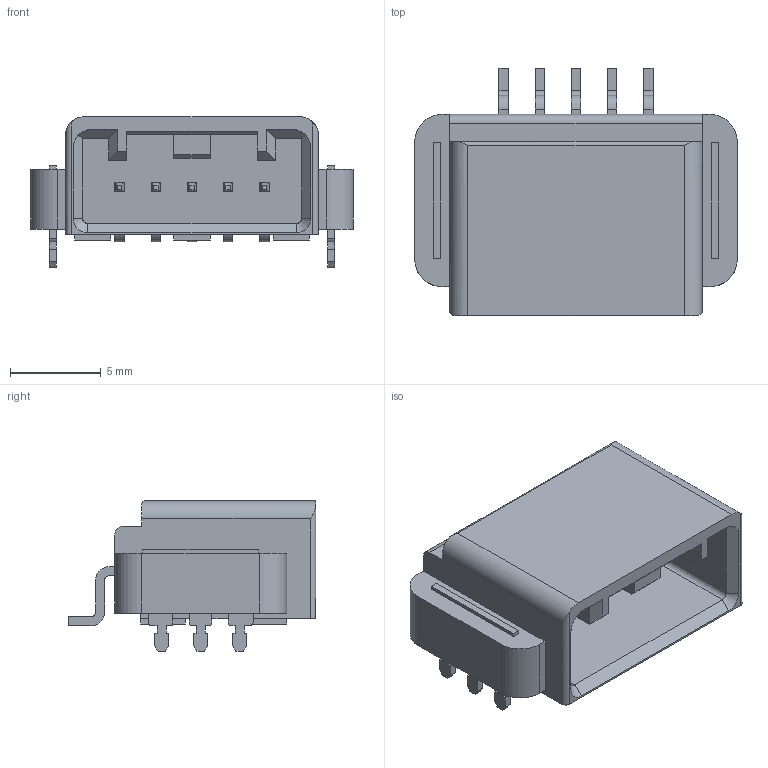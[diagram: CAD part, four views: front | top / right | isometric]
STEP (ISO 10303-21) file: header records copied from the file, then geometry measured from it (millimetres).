
FILE_DESCRIPTION(('Creo Elements/Direct Modeling STEP Export'),'2;1');
FILE_NAME('GT8E-5P-2H.stp','2015-05-21T 8:20:07',(''),(''),'Creo Elements/Direct Modeling STEP processor for AP214 (Solid Model)','Creo Elements/Direct Modeling 18.1E 22-Nov-2013 (C) Parametric Technology GmbH','');
FILE_SCHEMA(('AUTOMOTIVE_DESIGN { 1 0 10303 214 1 1 1 1 }'));
Length unit declared in the file: millimetre
Products named in the file (1): GT8E-5P-2H
Bounding box: 17.8 x 13.65 x 8.3 mm (x, y, z)
Volume: 618 mm3; surface area: 1203.7 mm2
Topology: 1 solids, 1 shells, 300 faces, 801 edges, 524 vertices
Faces by surface type: plane 252, cylinder 46, cone 2
Entity records: 9517 total; most frequent: CARTESIAN_POINT 1944, ORIENTED_EDGE 1602, DIRECTION 1483, EDGE_CURVE 801, VECTOR 705, LINE 705, VERTEX_POINT 524, AXIS2_PLACEMENT_3D 389
